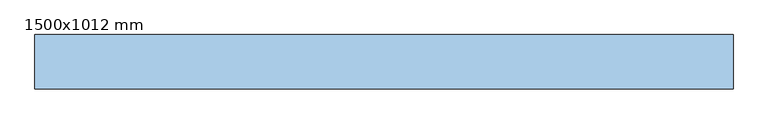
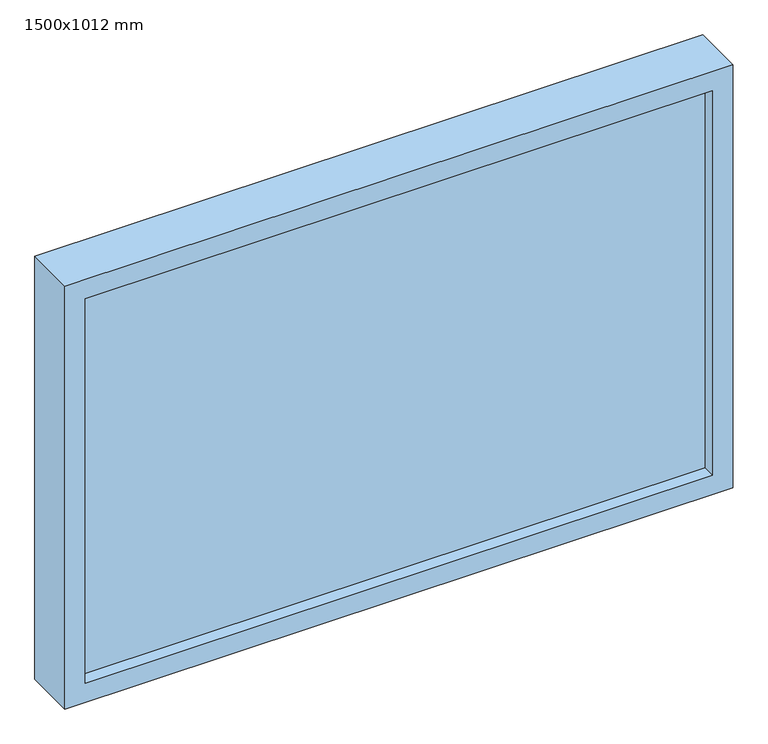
"""IFC4 building model written with IfcOpenShell, lengths in millimetres: window geometry, V_BS-Fals Beton-Tegl 590mm : 1500x1012 mm."""

from ifc_helpers import new_model, si_unit, frame, origin, place, context, project, spatial, polyline, outline, extrude, source, transform, mapped, element, save


def window_1500x1012_mm_fe9c3283(model_context):
    return source(origin(), model_context, "Body", "SweptSolid", [
        extrude(outline(polyline([(681.0, -207.0), (-705.0, -207.0), (-705.0, -185.0), (681.0, -185.0), (681.0, -207.0)])), frame((0.0, 0.0, 657.0), z_axis=(0.0, 0.0, 1.0), x_axis=(1.0, 0.0, 0.0)), (0.0, 0.0, 1.0), 898.0),
        extrude(outline(polyline([(1600.0, -750.0), (612.0, -750.0), (612.0, 726.0), (1600.0, 726.0), (1600.0, -750.0)]), holes=[polyline([(657.0, -705.0), (1555.0, -705.0), (1555.0, 681.0), (657.0, 681.0), (657.0, -705.0)])]), frame((0.0, -235.0, 0.0), z_axis=(0.0, 1.0, 0.0), x_axis=(0.0, 0.0, 1.0)), (0.0, 0.0, 1.0), 115.0),
    ])


if __name__ == "__main__":
    model = new_model("IFC4")
    model_context = context("Model", 3, world=origin())
    ifc_project = project(units=[si_unit("LENGTHUNIT", "METRE", prefix="MILLI")], contexts=[model_context])
    site = spatial("IfcSite", under=ifc_project)
    building = spatial("IfcBuilding", under=site)
    placement = place(None, origin())
    window_1500x1012_mm_shape = window_1500x1012_mm_fe9c3283(model_context)
    element("IfcWindow", 1, ObjectType="V_BS-Fals Beton-Tegl 590mm : 1500x1012 mm", at=placement, inside=building, context=model_context, shape_type="MappedRepresentation", body=[
        mapped(window_1500x1012_mm_shape, transform((0.0, 0.0, 0.0), x_axis=(1.0, 0.0, 0.0), y_axis=(0.0, 1.0, 0.0), z_axis=(0.0, 0.0, 1.0))),
    ])
    save(model, "model.ifc")
